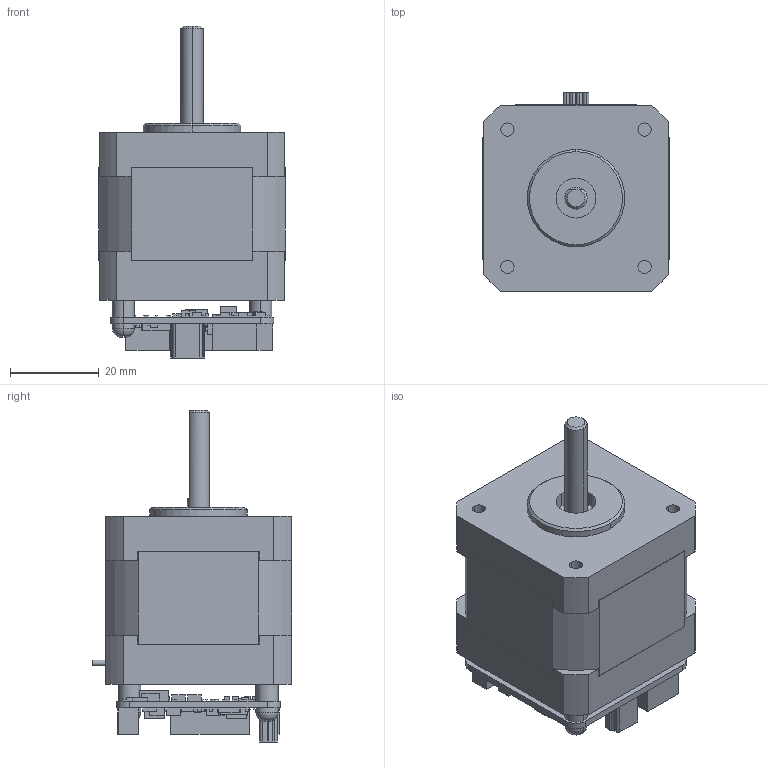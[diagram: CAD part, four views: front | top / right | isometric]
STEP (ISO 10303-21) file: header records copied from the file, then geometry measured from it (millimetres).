
FILE_DESCRIPTION (( 'STEP AP214' ), '1' );
FILE_NAME ('PD42-2-1141.STEP', '2016-10-14T10:19:32', ( 'Pearu Orusalu' ), ( 'Microsoft' ), 'SwSTEP 2.0', 'SolidWorks 2016', '' );
FILE_SCHEMA (( 'AUTOMOTIVE_DESIGN' ));
Length unit declared in the file: millimetre
Products named in the file (3): TMCM-1141_V13; NEMA17-42SH38-1004.001_PD42-2-1141; PD42-2-1141
Assembly tree (2 placements, depth 2):
  PD42-2-1141
    NEMA17-42SH38-1004.001_PD42-2-1141
    TMCM-1141_V13
Bounding box: 42.2 x 45.1 x 75 mm (x, y, z)
Volume: 70094.6 mm3; surface area: 15971.9 mm2
Topology: 2 solids, 2 shells, 750 faces, 1848 edges, 1228 vertices
Faces by surface type: plane 654, cylinder 84, torus 8, cone 4
Entity records: 28784 total; most frequent: CARTESIAN_POINT 4125, ORIENTED_EDGE 3696, DIRECTION 3482, EDGE_CURVE 1848, LINE 1576, VECTOR 1576, VERTEX_POINT 1228, AXIS2_PLACEMENT_3D 953
